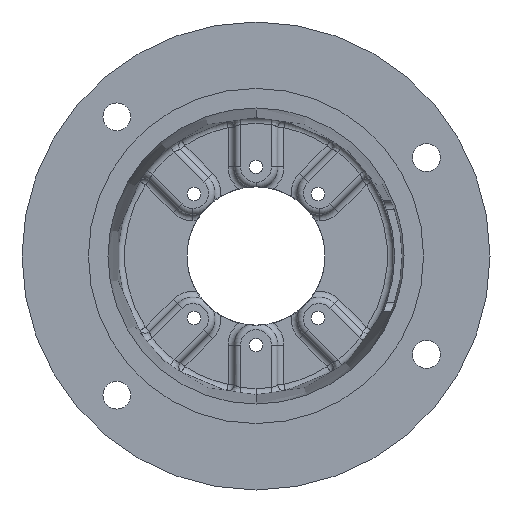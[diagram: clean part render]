
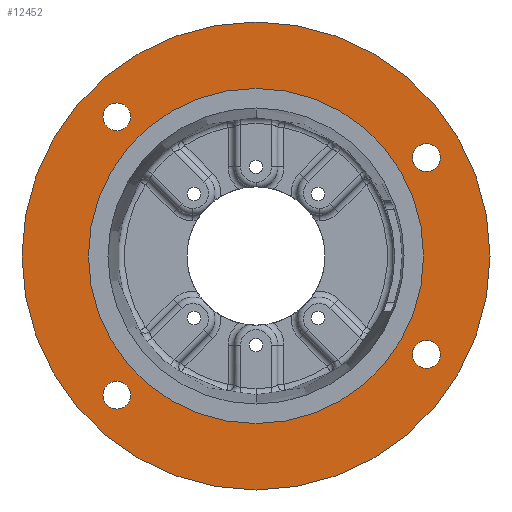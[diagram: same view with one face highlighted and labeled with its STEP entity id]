
A CAD part, front view. The second image highlights one B-rep face of the part: STEP entity #12452.
In plain terms, the highlighted planar face has unit normal (0, -1, 0).
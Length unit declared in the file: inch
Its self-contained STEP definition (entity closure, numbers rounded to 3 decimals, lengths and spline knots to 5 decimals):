
#121 = ORIENTED_EDGE ( 'NONE', *, *, #5060, .F. ) ;
#145 = EDGE_CURVE ( 'NONE', #10616, #12955, #2856, .T. ) ;
#318 = ORIENTED_EDGE ( 'NONE', *, *, #5257, .F. ) ;
#377 = DIRECTION ( 'NONE',  ( 0., 0., -1. ) ) ;
#657 = ORIENTED_EDGE ( 'NONE', *, *, #5488, .F. ) ;
#812 = ORIENTED_EDGE ( 'NONE', *, *, #9904, .F. ) ;
#928 = DIRECTION ( 'NONE',  ( 0., 0., -1. ) ) ;
#1122 = DIRECTION ( 'NONE',  ( 0., -1., 0. ) ) ;
#1132 = EDGE_LOOP ( 'NONE', ( #121, #318 ) ) ;
#1133 = EDGE_CURVE ( 'NONE', #3957, #12678, #7313, .T. ) ;
#1153 = CARTESIAN_POINT ( 'NONE',  ( -5.5, 0., 0. ) ) ;
#1375 = CIRCLE ( 'NONE', #9903, 0.32812 ) ;
#1436 = AXIS2_PLACEMENT_3D ( 'NONE', #1894, #1874, #1810 ) ;
#1490 = CARTESIAN_POINT ( 'NONE',  ( 4.00537, 0., -2.3125 ) ) ;
#1518 = CARTESIAN_POINT ( 'NONE',  ( 4.00537, 0., 2.64062 ) ) ;
#1553 = EDGE_CURVE ( 'NONE', #3068, #1664, #1613, .T. ) ;
#1613 = CIRCLE ( 'NONE', #9286, 5.5 ) ;
#1664 = VERTEX_POINT ( 'NONE', #11164 ) ;
#1810 = DIRECTION ( 'NONE',  ( 0., 0., -1. ) ) ;
#1814 = AXIS2_PLACEMENT_3D ( 'NONE', #4777, #4767, #4751 ) ;
#1874 = DIRECTION ( 'NONE',  ( 0., -1., 0. ) ) ;
#1894 = CARTESIAN_POINT ( 'NONE',  ( -3.27037, 0., 3.27037 ) ) ;
#1996 = AXIS2_PLACEMENT_3D ( 'NONE', #14275, #7568, #928 ) ;
#2010 = ORIENTED_EDGE ( 'NONE', *, *, #7674, .F. ) ;
#2334 = EDGE_CURVE ( 'NONE', #5504, #8419, #7454, .T. ) ;
#2596 = DIRECTION ( 'NONE',  ( 0., 0., -1. ) ) ;
#2856 = CIRCLE ( 'NONE', #5482, 0.32812 ) ;
#2911 = DIRECTION ( 'NONE',  ( 0., -1., 0. ) ) ;
#3036 = CARTESIAN_POINT ( 'NONE',  ( 4.00537, 0., -2.3125 ) ) ;
#3068 = VERTEX_POINT ( 'NONE', #9890 ) ;
#3069 = VERTEX_POINT ( 'NONE', #9910 ) ;
#3183 = FACE_OUTER_BOUND ( 'NONE', #8906, .T. ) ;
#3649 = CARTESIAN_POINT ( 'NONE',  ( -3.27037, 0., 2.94224 ) ) ;
#3903 = FACE_BOUND ( 'NONE', #9617, .T. ) ;
#3955 = DIRECTION ( 'NONE',  ( 0., -1., 0. ) ) ;
#3957 = VERTEX_POINT ( 'NONE', #3649 ) ;
#4164 = DIRECTION ( 'NONE',  ( 0., 0., -1. ) ) ;
#4228 = ORIENTED_EDGE ( 'NONE', *, *, #145, .F. ) ;
#4335 = CIRCLE ( 'NONE', #6016, 3.9385 ) ;
#4459 = CARTESIAN_POINT ( 'NONE',  ( -3.27037, 0., -3.27037 ) ) ;
#4751 = DIRECTION ( 'NONE',  ( 0., 0., -1. ) ) ;
#4767 = DIRECTION ( 'NONE',  ( 0., -1., 0. ) ) ;
#4777 = CARTESIAN_POINT ( 'NONE',  ( 4.00537, 0., 2.3125 ) ) ;
#4971 = AXIS2_PLACEMENT_3D ( 'NONE', #7754, #1122, #8851 ) ;
#5060 = EDGE_CURVE ( 'NONE', #6999, #5183, #4335, .T. ) ;
#5183 = VERTEX_POINT ( 'NONE', #5260 ) ;
#5257 = EDGE_CURVE ( 'NONE', #5183, #6999, #8798, .T. ) ;
#5260 = CARTESIAN_POINT ( 'NONE',  ( 0., 0., 3.9385 ) ) ;
#5368 = EDGE_CURVE ( 'NONE', #1664, #3068, #14097, .T. ) ;
#5482 = AXIS2_PLACEMENT_3D ( 'NONE', #9731, #9079, #8589 ) ;
#5488 = EDGE_CURVE ( 'NONE', #5564, #3069, #7785, .T. ) ;
#5504 = VERTEX_POINT ( 'NONE', #11415 ) ;
#5564 = VERTEX_POINT ( 'NONE', #7147 ) ;
#5593 = DIRECTION ( 'NONE',  ( 0., 0., -1. ) ) ;
#5632 = DIRECTION ( 'NONE',  ( 0., 0., 1. ) ) ;
#5652 = EDGE_LOOP ( 'NONE', ( #11657, #812 ) ) ;
#6016 = AXIS2_PLACEMENT_3D ( 'NONE', #10621, #3955, #11724 ) ;
#6126 = CARTESIAN_POINT ( 'NONE',  ( 0., 0., -3.9385 ) ) ;
#6168 = FACE_BOUND ( 'NONE', #1132, .T. ) ;
#6616 = ORIENTED_EDGE ( 'NONE', *, *, #1553, .T. ) ;
#6850 = AXIS2_PLACEMENT_3D ( 'NONE', #4459, #12224, #5593 ) ;
#6930 = ORIENTED_EDGE ( 'NONE', *, *, #8048, .F. ) ;
#6999 = VERTEX_POINT ( 'NONE', #6126 ) ;
#7027 = DIRECTION ( 'NONE',  ( 0., -1., 0. ) ) ;
#7147 = CARTESIAN_POINT ( 'NONE',  ( 4.00537, 0., -2.64063 ) ) ;
#7153 = CARTESIAN_POINT ( 'NONE',  ( -3.27037, 0., -2.94224 ) ) ;
#7313 = CIRCLE ( 'NONE', #1436, 0.32812 ) ;
#7402 = CARTESIAN_POINT ( 'NONE',  ( -3.27037, 0., 3.59849 ) ) ;
#7454 = CIRCLE ( 'NONE', #1814, 0.32812 ) ;
#7568 = DIRECTION ( 'NONE',  ( 0., -1., 0. ) ) ;
#7674 = EDGE_CURVE ( 'NONE', #8419, #5504, #1375, .T. ) ;
#7754 = CARTESIAN_POINT ( 'NONE',  ( 0., 0., 0. ) ) ;
#7785 = CIRCLE ( 'NONE', #10158, 0.32812 ) ;
#8048 = EDGE_CURVE ( 'NONE', #3069, #5564, #10393, .T. ) ;
#8419 = VERTEX_POINT ( 'NONE', #1518 ) ;
#8589 = DIRECTION ( 'NONE',  ( 0., 0., -1. ) ) ;
#8798 = CIRCLE ( 'NONE', #1996, 3.9385 ) ;
#8851 = DIRECTION ( 'NONE',  ( 0., 0., -1. ) ) ;
#8906 = EDGE_LOOP ( 'NONE', ( #9612, #6616 ) ) ;
#9050 = FACE_BOUND ( 'NONE', #5652, .T. ) ;
#9079 = DIRECTION ( 'NONE',  ( 0., -1., 0. ) ) ;
#9171 = CARTESIAN_POINT ( 'NONE',  ( -3.27037, 0., -3.59849 ) ) ;
#9202 = DIRECTION ( 'NONE',  ( 0., -1., 0. ) ) ;
#9271 = EDGE_LOOP ( 'NONE', ( #657, #6930 ) ) ;
#9286 = AXIS2_PLACEMENT_3D ( 'NONE', #12330, #12309, #12307 ) ;
#9414 = CIRCLE ( 'NONE', #6850, 0.32812 ) ;
#9540 = CARTESIAN_POINT ( 'NONE',  ( 4.00537, 0., 2.3125 ) ) ;
#9612 = ORIENTED_EDGE ( 'NONE', *, *, #5368, .T. ) ;
#9617 = EDGE_LOOP ( 'NONE', ( #10006, #2010 ) ) ;
#9731 = CARTESIAN_POINT ( 'NONE',  ( -3.27037, 0., -3.27037 ) ) ;
#9769 = FACE_BOUND ( 'NONE', #11317, .T. ) ;
#9794 = AXIS2_PLACEMENT_3D ( 'NONE', #1153, #12270, #5632 ) ;
#9890 = CARTESIAN_POINT ( 'NONE',  ( 0., 0., 5.5 ) ) ;
#9903 = AXIS2_PLACEMENT_3D ( 'NONE', #9540, #2911, #10675 ) ;
#9904 = EDGE_CURVE ( 'NONE', #12678, #3957, #11628, .T. ) ;
#9910 = CARTESIAN_POINT ( 'NONE',  ( 4.00537, 0., -1.98438 ) ) ;
#9911 = ORIENTED_EDGE ( 'NONE', *, *, #12388, .F. ) ;
#10006 = ORIENTED_EDGE ( 'NONE', *, *, #2334, .F. ) ;
#10035 = PLANE ( 'NONE',  #9794 ) ;
#10158 = AXIS2_PLACEMENT_3D ( 'NONE', #1490, #9202, #2596 ) ;
#10381 = AXIS2_PLACEMENT_3D ( 'NONE', #3036, #10802, #4164 ) ;
#10393 = CIRCLE ( 'NONE', #10381, 0.32812 ) ;
#10616 = VERTEX_POINT ( 'NONE', #7153 ) ;
#10621 = CARTESIAN_POINT ( 'NONE',  ( 0., 0., 0. ) ) ;
#10675 = DIRECTION ( 'NONE',  ( 0., 0., -1. ) ) ;
#10802 = DIRECTION ( 'NONE',  ( 0., -1., 0. ) ) ;
#11164 = CARTESIAN_POINT ( 'NONE',  ( 0., 0., -5.5 ) ) ;
#11317 = EDGE_LOOP ( 'NONE', ( #9911, #4228 ) ) ;
#11415 = CARTESIAN_POINT ( 'NONE',  ( 4.00537, 0., 1.98437 ) ) ;
#11628 = CIRCLE ( 'NONE', #14428, 0.32812 ) ;
#11657 = ORIENTED_EDGE ( 'NONE', *, *, #1133, .F. ) ;
#11724 = DIRECTION ( 'NONE',  ( 0., 0., -1. ) ) ;
#12040 = FACE_BOUND ( 'NONE', #9271, .T. ) ;
#12224 = DIRECTION ( 'NONE',  ( 0., -1., 0. ) ) ;
#12270 = DIRECTION ( 'NONE',  ( 0., 1., 0. ) ) ;
#12307 = DIRECTION ( 'NONE',  ( 0., 0., -1. ) ) ;
#12309 = DIRECTION ( 'NONE',  ( 0., -1., 0. ) ) ;
#12330 = CARTESIAN_POINT ( 'NONE',  ( 0., 0., 0. ) ) ;
#12388 = EDGE_CURVE ( 'NONE', #12955, #10616, #9414, .T. ) ;
#12452 = ADVANCED_FACE ( 'NONE', ( #3903, #12040, #9769, #9050, #6168, #3183 ), #10035, .F. ) ;
#12678 = VERTEX_POINT ( 'NONE', #7402 ) ;
#12955 = VERTEX_POINT ( 'NONE', #9171 ) ;
#13707 = CARTESIAN_POINT ( 'NONE',  ( -3.27037, 0., 3.27037 ) ) ;
#14097 = CIRCLE ( 'NONE', #4971, 5.5 ) ;
#14275 = CARTESIAN_POINT ( 'NONE',  ( 0., 0., 0. ) ) ;
#14428 = AXIS2_PLACEMENT_3D ( 'NONE', #13707, #7027, #377 ) ;
